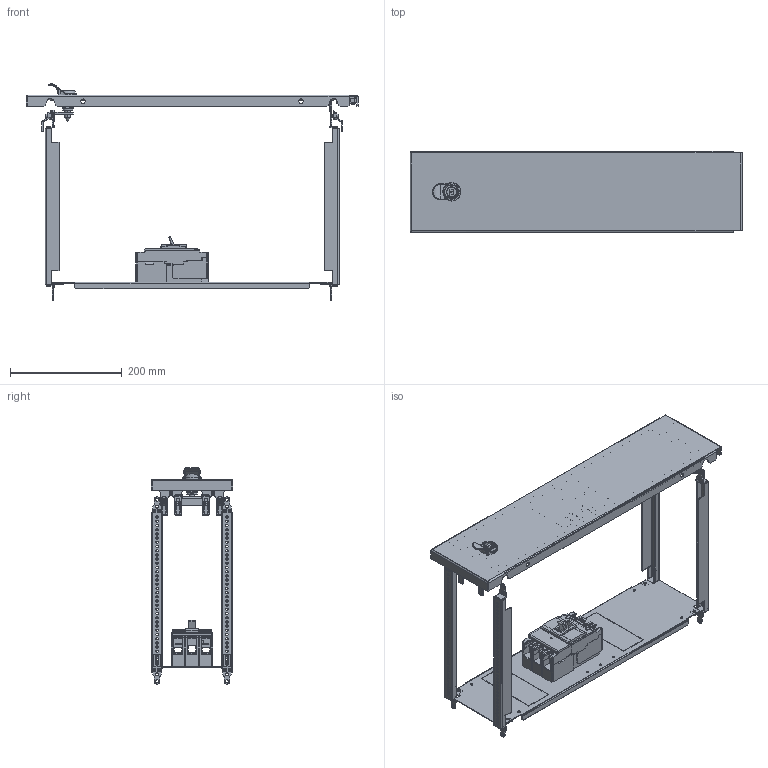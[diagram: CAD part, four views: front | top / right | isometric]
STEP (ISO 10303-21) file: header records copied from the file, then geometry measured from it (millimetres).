
FILE_DESCRIPTION(('CAx-IF Rec.Pracs.---Model Styling and Organization---1.2---2011-12-15','CAx-IF Rec.Pracs.---Geometric and Assembly Validation Properties---4.1---2014-06-16','CAx-IF Rec.Pracs.---PMI Polyline Presentation---2.0---2013-05-24'),'2;1');
FILE_NAME('R5PKEB7H61111.stp','2021-07-29T02:07:37+03:00',(''),(''),'STEP Interface 4.4 by CT CoreTechnologie','3D_Evolution4.4 by CT CoreTechnologie','');
FILE_SCHEMA(('AUTOMOTIVE_DESIGN { 1 0 10303 214 1 1 1 1 }'));
Length unit declared in the file: millimetre
Products named in the file (1): R5PKEB7H61111
Bounding box: 594 x 145 x 386.9 mm (x, y, z)
Surface area: 711946.7 mm2 (no closed solid volume)
Topology: 0 solids, 80 shells, 2885 faces, 8440 edges, 5658 vertices
Faces by surface type: plane 1349, cylinder 1139, bspline 397
Entity records: 108589 total; most frequent: CARTESIAN_POINT 31316, ORIENTED_EDGE 16049, DIRECTION 15687, EDGE_CURVE 8405, VERTEX_POINT 5658, VECTOR 5349, LINE 5349, AXIS2_PLACEMENT_3D 5169
